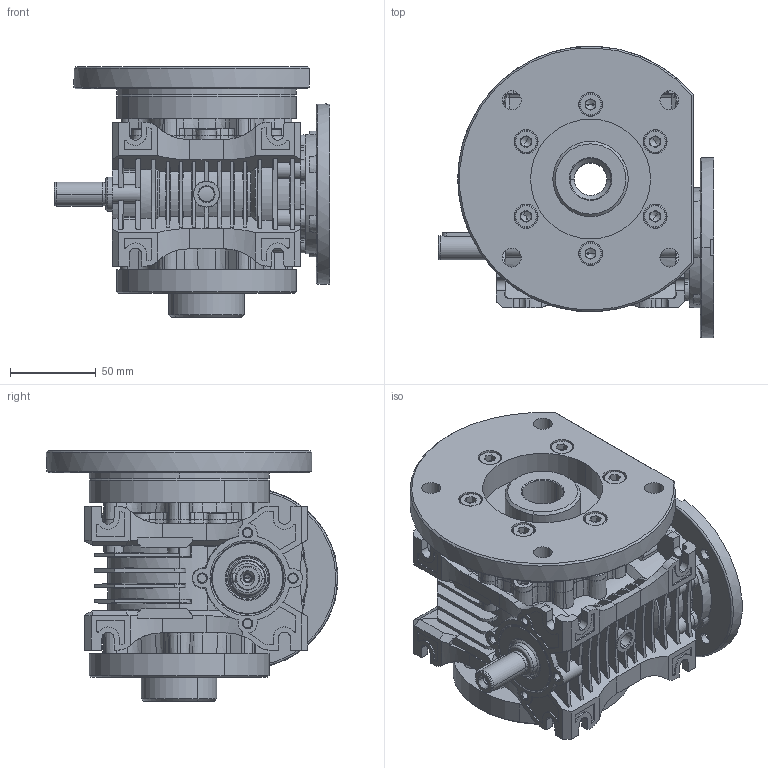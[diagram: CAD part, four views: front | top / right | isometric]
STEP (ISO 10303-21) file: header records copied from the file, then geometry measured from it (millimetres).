
FILE_DESCRIPTION (( 'STEP AP203' ), '1' );
FILE_NAME ('MRP-40_105_14-WBS_SP_KM-2_3D.STEP', '2024-10-25T05:48:42', ( '' ), ( '' ), 'SwSTEP 2.0', 'SolidWorks 2022', '' );
FILE_SCHEMA (( 'CONFIG_CONTROL_DESIGN' ));
Products named in the file (1): MRP-40_105_14-WBS_SP_KM-2_3D
Bounding box: 161 x 169.96 x 146.5 mm (x, y, z)
Volume: 1201461.2 mm3; surface area: 268908.2 mm2
Topology: 1 solids, 73 shells, 3178 faces, 8111 edges, 5130 vertices
Faces by surface type: plane 1272, cone 904, cylinder 572, bspline 216, torus 178, sphere 36
Entity records: 104070 total; most frequent: CARTESIAN_POINT 28890, ORIENTED_EDGE 16078, DIRECTION 15544, EDGE_CURVE 8039, AXIS2_PLACEMENT_3D 5953, VERTEX_POINT 5130, VECTOR 3638, LINE 3638
